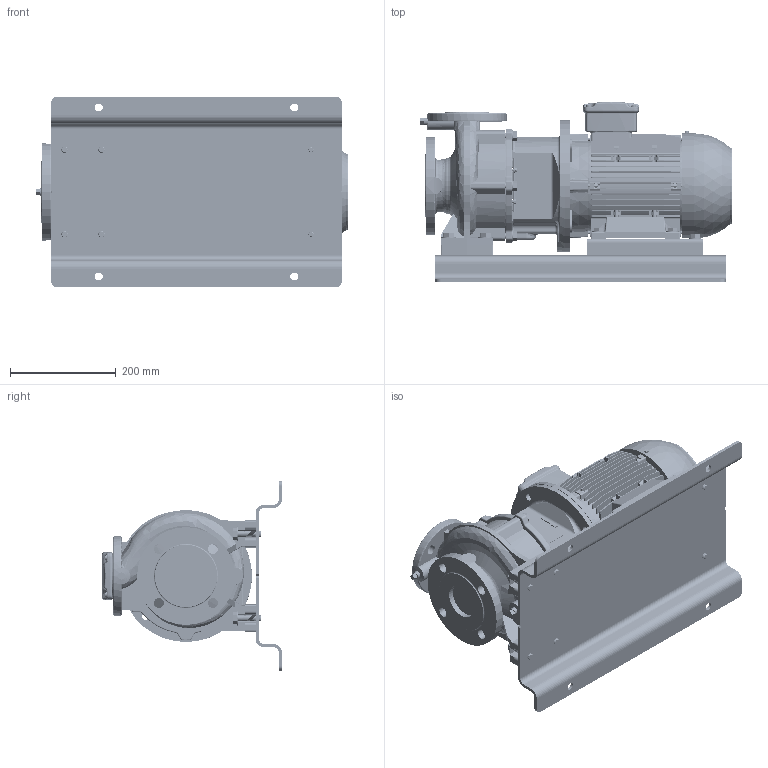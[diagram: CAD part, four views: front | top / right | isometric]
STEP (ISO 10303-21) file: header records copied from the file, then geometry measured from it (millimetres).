
FILE_DESCRIPTION (( 'STEP AP214' ), '1' );
FILE_NAME ('GSD2 40-125_3.0_(100L)_W21_BP.STEP', '2024-03-25T01:56:10', ( '' ), ( '' ), 'SwSTEP 2.0', 'SolidWorks 2019', '' );
FILE_SCHEMA (( 'AUTOMOTIVE_DESIGN' ));
Length unit declared in the file: millimetre
Products named in the file (11): GSD2  40-125_3.0_(100L)_W21_BP; N2S3 GSDA-233 F1-1832899-00; 100L ALIE3_W21T_B35; Parametric Flat Washer_M12; CGS11-5301_2_3_4_5_CGS11-5301; 40-125-100L; Parametric bolt_SFT-A253B; 140 x 32 - 271472023; Parametric bolt_SFT-A305B; Parametric Flat Washer_M10; Parametric bolt_SFT-A259B
Assembly tree (27 placements, depth 2):
  GSD2  40-125_3.0_(100L)_W21_BP
    40-125-100L
    100L ALIE3_W21T_B35
    CGS11-5301_2_3_4_5_CGS11-5301  x2
    N2S3 GSDA-233 F1-1832899-00
    140 x 32 - 271472023  x2
    Parametric bolt_SFT-A253B  x4
    Parametric bolt_SFT-A259B  x2
    Parametric bolt_SFT-A305B  x4
    Parametric Flat Washer_M12  x4
    Parametric Flat Washer_M10  x6
Bounding box: 591.3 x 341 x 360 mm (x, y, z)
Volume: 16074822.8 mm3; surface area: 1796024 mm2
Topology: 43 solids, 43 shells, 4267 faces, 11253 edges, 7303 vertices
Faces by surface type: plane 2365, cylinder 1143, torus 320, bspline 234, cone 187, sphere 18
Entity records: 194123 total; most frequent: CARTESIAN_POINT 90294, ORIENTED_EDGE 20144, DIRECTION 18008, EDGE_CURVE 10072, VERTEX_POINT 6544, VECTOR 6290, LINE 6290, AXIS2_PLACEMENT_3D 5859
